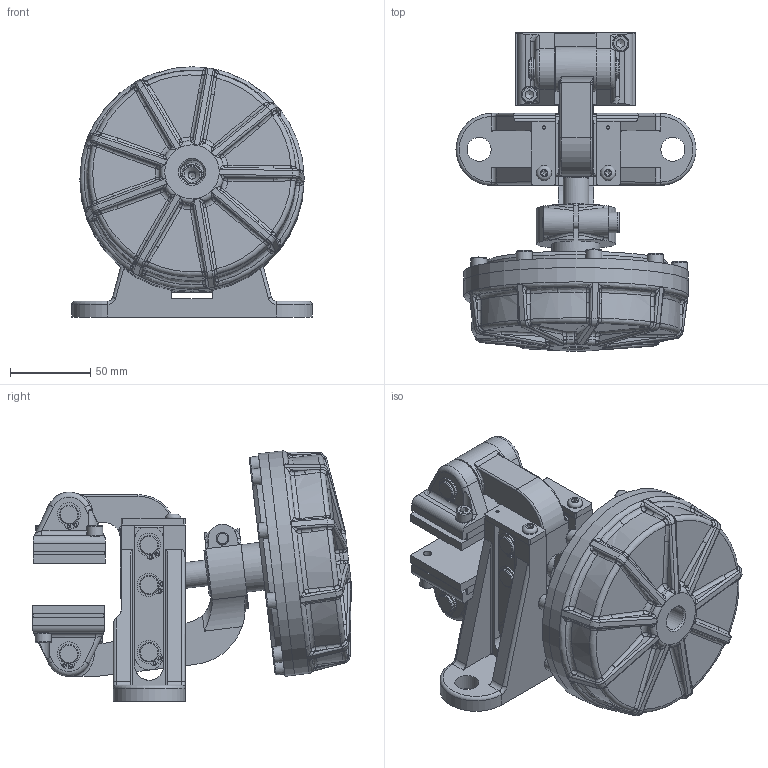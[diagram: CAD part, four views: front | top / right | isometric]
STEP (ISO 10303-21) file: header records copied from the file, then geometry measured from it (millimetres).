
FILE_DESCRIPTION(/* description */ ('','CAx-IF Rec.Pracs.---Representation and Presentation of Product Manufacturing Information (PMI)---4.0---2014-10-13'),/* implementation_level */ '2;1');
FILE_NAME(/* name */ 'X:\INVENTOR\DISEGNI\19_Pinze\STEP x Sito\PNEUM-POSITIVE\19_16_013_04 PPD013_25,4.stp',/* time_stamp */ '2018-02-14T07:41:53+01:00',/* author */ ('stefano'),/* organization */ (''),/* preprocessor_version */ 'ST-DEVELOPER v17',/* originating_system */ 'Autodesk Inventor 2018',/* authorisation */ '');
FILE_SCHEMA (('AP242_MANAGED_MODEL_BASED_3D_ENGINEERING_MIM_LF { 1 0 10303 442 1 1 4 }'));
Products named in the file (1): 19_16_013_04 PPD013_25,4_Substitute_2
Bounding box: 150 x 198.99 x 156.33 mm (x, y, z)
Volume: 1227885.3 mm3; surface area: 178017.5 mm2
Topology: 4 solids, 4 shells, 1267 faces, 3483 edges, 2246 vertices
Faces by surface type: plane 514, cylinder 355, bspline 232, torus 97, cone 68, sphere 1
Full cylindrical faces by diameter (mm): 1.7 x20, 2 x2, 4.917 x8, 5 x1, 8 x2, 8.5 x1, 9.5 x4, 10 x17, 11.5 x10, 12 x23, 13 x2, 13.5 x1, 14.95 x1, 15 x2, 16 x1, 19 x1, 22.6 x1, 30 x1, 35 x1, 85 x1, 118 x1, 140 x2
Entity records: 53000 total; most frequent: CARTESIAN_POINT 20963, ORIENTED_EDGE 6900, DIRECTION 5961, EDGE_CURVE 3450, AXIS2_PLACEMENT_3D 2327, VERTEX_POINT 2246, EDGE_LOOP 1378, LINE 1307
